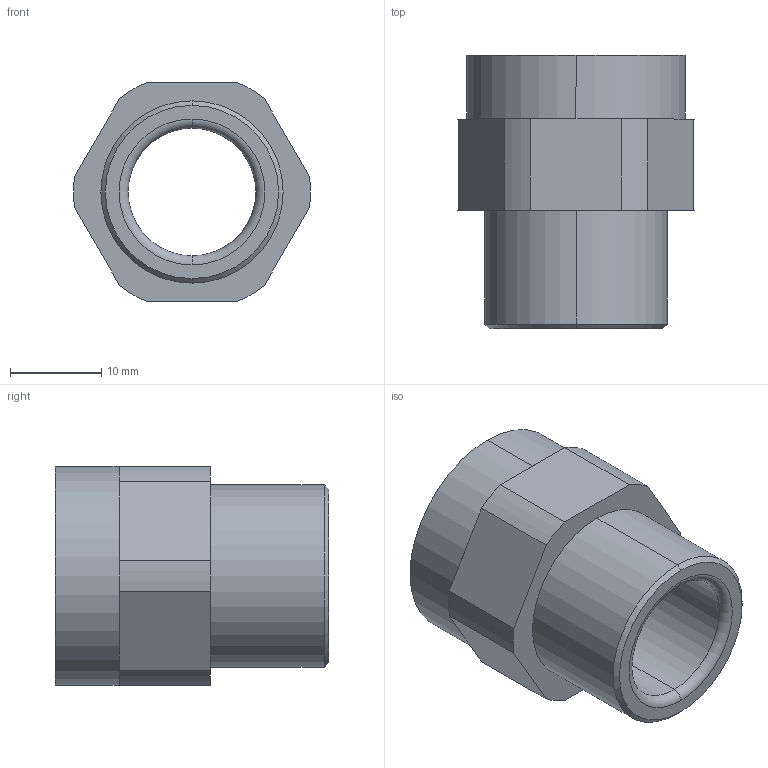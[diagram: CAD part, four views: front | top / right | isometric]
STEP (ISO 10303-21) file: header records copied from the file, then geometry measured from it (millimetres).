
FILE_DESCRIPTION (( 'STEP AP203' ), '1' );
FILE_NAME ('WYTC-14-M20.STEP', '2020-03-12T01:28:03', ( 'c' ), ( 'Microsoft' ), 'SwSTEP 2.0', 'SolidWorks 2016', '' );
FILE_SCHEMA (( 'CONFIG_CONTROL_DESIGN' ));
Length unit declared in the file: millimetre
Products named in the file (1): WYTC-14-M20
Bounding box: 25.98 x 30 x 24 mm (x, y, z)
Volume: 5380.2 mm3; surface area: 4782.3 mm2
Topology: 1 solids, 1 shells, 50 faces, 110 edges, 68 vertices
Faces by surface type: cylinder 22, plane 20, torus 6, cone 2
Entity records: 1469 total; most frequent: DIRECTION 274, CARTESIAN_POINT 229, ORIENTED_EDGE 220, AXIS2_PLACEMENT_3D 113, EDGE_CURVE 110, VERTEX_POINT 68, CIRCLE 62, EDGE_LOOP 58
